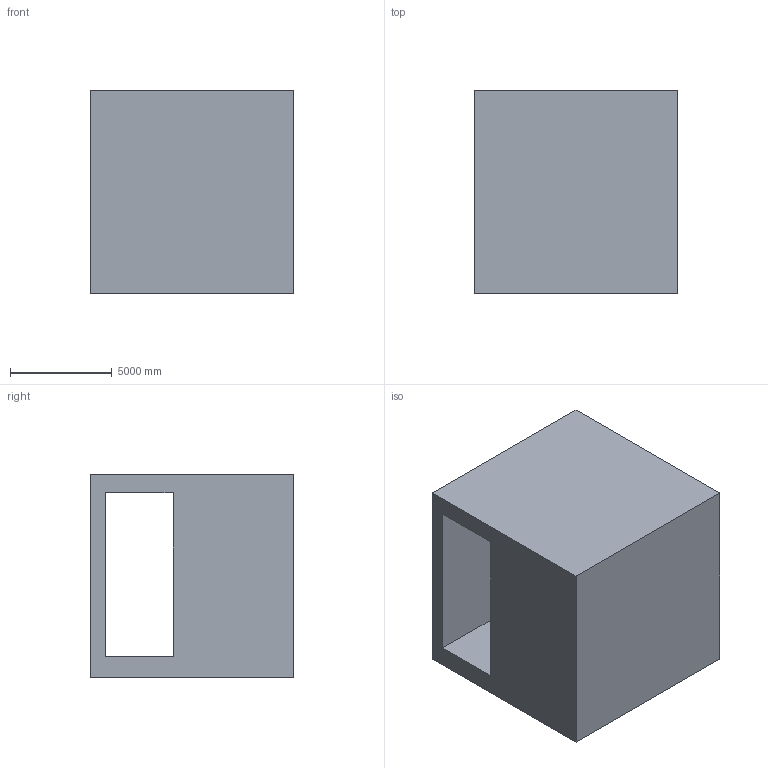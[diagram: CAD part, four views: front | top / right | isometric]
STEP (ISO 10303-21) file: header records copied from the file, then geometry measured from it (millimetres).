
FILE_DESCRIPTION (( 'STEP AP203' ), '1' );
FILE_NAME ('1080.STEP', '2022-08-18T12:40:50', ( 'user' ), ( '' ), 'SwSTEP 2.0', 'SolidWorks 2021', '' );
FILE_SCHEMA (( 'CONFIG_CONTROL_DESIGN' ));
Length unit declared in the file: centimetre
Products named in the file (1): 1080
Bounding box: 10000 x 10000 x 10000 mm (x, y, z)
Volume: 701509529978.3 mm3; surface area: 732424455.9 mm2
Topology: 1 solids, 1 shells, 13 faces, 36 edges, 24 vertices
Faces by surface type: plane 13
Entity records: 491 total; most frequent: CARTESIAN_POINT 74, ORIENTED_EDGE 72, DIRECTION 64, EDGE_CURVE 36, VECTOR 36, LINE 36, VERTEX_POINT 24, AXIS2_PLACEMENT_3D 14
